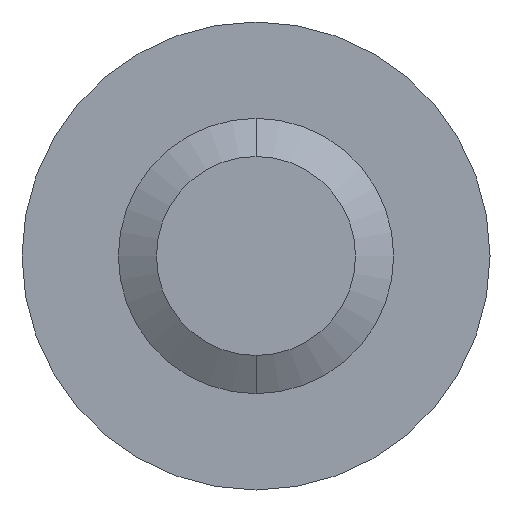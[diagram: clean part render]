
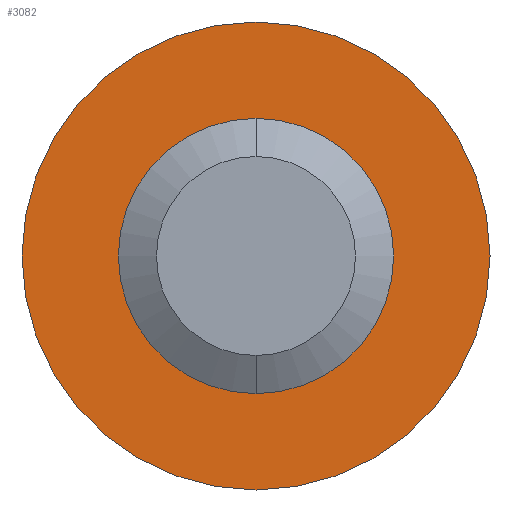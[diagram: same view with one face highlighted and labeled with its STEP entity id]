
A CAD part, front view. The second image highlights one B-rep face of the part: STEP entity #3082.
In plain terms, the highlighted planar face has unit normal (0, -1, 0).
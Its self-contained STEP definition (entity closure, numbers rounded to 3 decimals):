
#35 = AXIS2_PLACEMENT_3D ( 'NONE', #3428, #703, #677 ) ;
#56 = ORIENTED_EDGE ( 'NONE', *, *, #2472, .T. ) ;
#256 = AXIS2_PLACEMENT_3D ( 'NONE', #3657, #2267, #2321 ) ;
#286 = CARTESIAN_POINT ( 'NONE',  ( 0., 30., 4.25 ) ) ;
#335 = DIRECTION ( 'NONE',  ( 0., 0., 1. ) ) ;
#461 = VERTEX_POINT ( 'NONE', #760 ) ;
#467 = CIRCLE ( 'NONE', #2233, 2.5 ) ;
#552 = ORIENTED_EDGE ( 'NONE', *, *, #3458, .F. ) ;
#669 = ORIENTED_EDGE ( 'NONE', *, *, #2966, .T. ) ;
#677 = DIRECTION ( 'NONE',  ( 0., 0., 1. ) ) ;
#703 = DIRECTION ( 'NONE',  ( 0., 1., 0. ) ) ;
#760 = CARTESIAN_POINT ( 'NONE',  ( 0., 30., -4.25 ) ) ;
#843 = ORIENTED_EDGE ( 'NONE', *, *, #3961, .F. ) ;
#877 = CARTESIAN_POINT ( 'NONE',  ( 0., 30., -2.5 ) ) ;
#1037 = DIRECTION ( 'NONE',  ( 0., 1., 0. ) ) ;
#1088 = CARTESIAN_POINT ( 'NONE',  ( 0., 30., 0. ) ) ;
#1166 = DIRECTION ( 'NONE',  ( 0., 1., 0. ) ) ;
#1521 = DIRECTION ( 'NONE',  ( 0., 0., 1. ) ) ;
#1522 = CIRCLE ( 'NONE', #256, 4.25 ) ;
#1838 = CARTESIAN_POINT ( 'NONE',  ( 0., 30., 0. ) ) ;
#1857 = FACE_OUTER_BOUND ( 'NONE', #2750, .T. ) ;
#1916 = EDGE_LOOP ( 'NONE', ( #669, #56 ) ) ;
#2233 = AXIS2_PLACEMENT_3D ( 'NONE', #1088, #1037, #3888 ) ;
#2267 = DIRECTION ( 'NONE',  ( 0., 1., 0. ) ) ;
#2321 = DIRECTION ( 'NONE',  ( 0., 0., 1. ) ) ;
#2472 = EDGE_CURVE ( 'NONE', #2701, #4177, #3763, .T. ) ;
#2701 = VERTEX_POINT ( 'NONE', #877 ) ;
#2750 = EDGE_LOOP ( 'NONE', ( #552, #843 ) ) ;
#2892 = CIRCLE ( 'NONE', #4141, 4.25 ) ;
#2966 = EDGE_CURVE ( 'NONE', #4177, #2701, #467, .T. ) ;
#3082 = ADVANCED_FACE ( 'NONE', ( #1857, #3658 ), #3913, .F. ) ;
#3272 = CARTESIAN_POINT ( 'NONE',  ( 0., 30., 2.5 ) ) ;
#3428 = CARTESIAN_POINT ( 'NONE',  ( 0., 30., 0. ) ) ;
#3458 = EDGE_CURVE ( 'NONE', #461, #3866, #2892, .T. ) ;
#3482 = CARTESIAN_POINT ( 'NONE',  ( 0., 30., 0. ) ) ;
#3657 = CARTESIAN_POINT ( 'NONE',  ( 0., 30., 0. ) ) ;
#3658 = FACE_BOUND ( 'NONE', #1916, .T. ) ;
#3763 = CIRCLE ( 'NONE', #35, 2.5 ) ;
#3866 = VERTEX_POINT ( 'NONE', #286 ) ;
#3888 = DIRECTION ( 'NONE',  ( 0., 0., 1. ) ) ;
#3913 = PLANE ( 'NONE',  #4499 ) ;
#3961 = EDGE_CURVE ( 'NONE', #3866, #461, #1522, .T. ) ;
#4141 = AXIS2_PLACEMENT_3D ( 'NONE', #3482, #4234, #335 ) ;
#4177 = VERTEX_POINT ( 'NONE', #3272 ) ;
#4234 = DIRECTION ( 'NONE',  ( 0., 1., 0. ) ) ;
#4499 = AXIS2_PLACEMENT_3D ( 'NONE', #1838, #1166, #1521 ) ;
